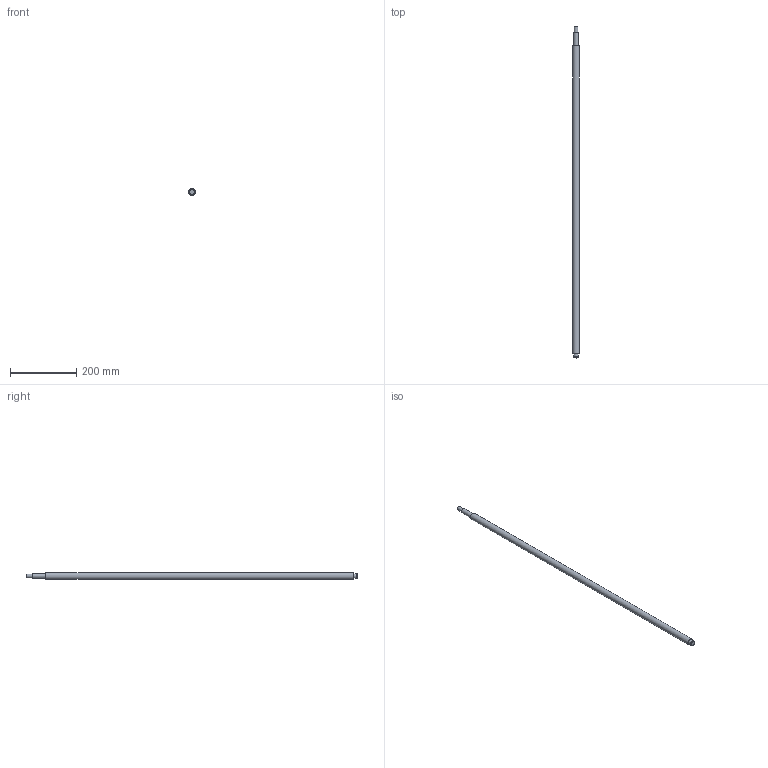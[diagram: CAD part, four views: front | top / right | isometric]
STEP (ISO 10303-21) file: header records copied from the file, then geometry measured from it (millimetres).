
FILE_DESCRIPTION(/* description */ (''),/* implementation_level */ '2;1');
FILE_NAME(/* name */ 'C:\Users\David\Desktop\stepFiles\Profilfuehrung\KUS2010x1000.stp',/* time_stamp */ '2018-06-24T15:12:50+02:00',/* author */ ('David'),/* organization */ (''),/* preprocessor_version */ 'ST-DEVELOPER v17',/* originating_system */ 'Autodesk Inventor 2019',/* authorisation */ '');
FILE_SCHEMA (('AUTOMOTIVE_DESIGN { 1 0 10303 214 3 1 1 }'));
Length unit declared in the file: millimetre
Products named in the file (1): SFU2005xvaiabel
Bounding box: 20 x 1000 x 20 mm (x, y, z)
Volume: 302824.6 mm3; surface area: 62129.2 mm2
Topology: 1 solids, 1 shells, 15 faces, 34 edges, 26 vertices
Faces by surface type: plane 7, cylinder 6, cone 2
Full cylindrical faces by diameter (mm): 12 x1, 14.3 x1, 15 x3, 20 x1
Entity records: 493 total; most frequent: DIRECTION 92, CARTESIAN_POINT 76, ORIENTED_EDGE 68, AXIS2_PLACEMENT_3D 42, EDGE_CURVE 34, CIRCLE 26, VERTEX_POINT 26, EDGE_LOOP 20
